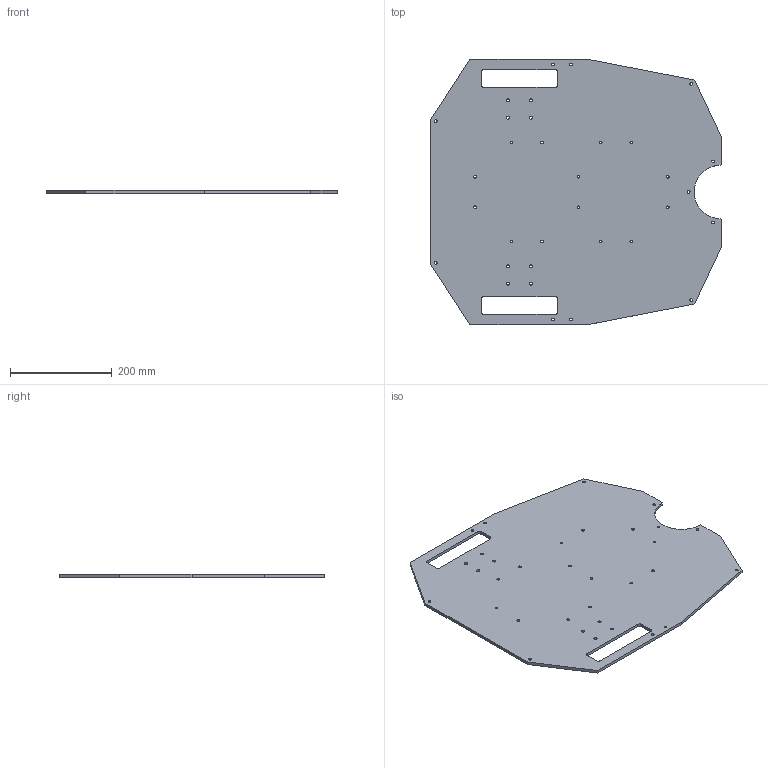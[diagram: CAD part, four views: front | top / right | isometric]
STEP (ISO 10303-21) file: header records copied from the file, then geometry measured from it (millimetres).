
FILE_DESCRIPTION(('CATIA V5 STEP Exchange'),'2;1');
FILE_NAME('C:\Users\Alexis David Sanna\Documents\INVESTIGACION\ROMAA NUEVO (MOTOR REMSSI)\STEP\placa base-M.stp','2010-10-29T14:03:58+00:00',('none'),('none'),'CATIA Version 5 Release 18 GA (IN-10)','CATIA V5 STEP AP203','none');
FILE_SCHEMA(('CONFIG_CONTROL_DESIGN'));
Length unit declared in the file: millimetre
Products named in the file (1): placa base-M
Bounding box: 570 x 520 x 6 mm (x, y, z)
Volume: 1519811.4 mm3; surface area: 526191.1 mm2
Topology: 1 solids, 1 shells, 98 faces, 288 edges, 192 vertices
Faces by surface type: cylinder 76, plane 22
Entity records: 3184 total; most frequent: ORIENTED_EDGE 576, CARTESIAN_POINT 541, DIRECTION 408, EDGE_CURVE 288, AXIS2_PLACEMENT_3D 213, VERTEX_POINT 192, EDGE_LOOP 168, CIRCLE 152
